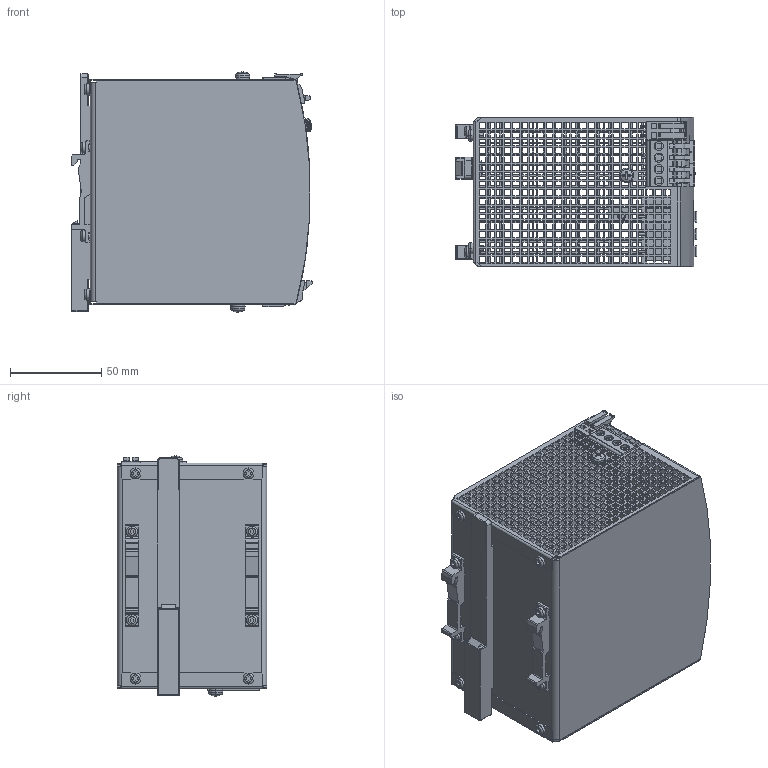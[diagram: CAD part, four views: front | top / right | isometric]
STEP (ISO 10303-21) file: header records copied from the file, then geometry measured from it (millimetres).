
FILE_DESCRIPTION((''),'2;1');
FILE_NAME('CD_PS-17','2009-11-25T',('aluksys'),(''),'PRO/ENGINEER BY PARAMETRIC TECHNOLOGY CORPORATION, 2006080','PRO/ENGINEER BY PARAMETRIC TECHNOLOGY CORPORATION, 2006080','');
FILE_SCHEMA(('CONFIG_CONTROL_DESIGN'));
Products named in the file (1): CD_PS-17
Bounding box: 132.7 x 82 x 131.75 mm (x, y, z)
Volume: 103557.5 mm3; surface area: 138572.8 mm2
Topology: 2 solids, 2 shells, 4025 faces, 11648 edges, 7729 vertices
Faces by surface type: plane 3247, cylinder 397, extrusion 260, torus 50, cone 31, bspline 24, sphere 16
Entity records: 146438 total; most frequent: CARTESIAN_POINT 39130, ORIENTED_EDGE 23288, DIRECTION 19355, EDGE_CURVE 11644, VECTOR 9893, LINE 9633, VERTEX_POINT 7729, EDGE_LOOP 5337
